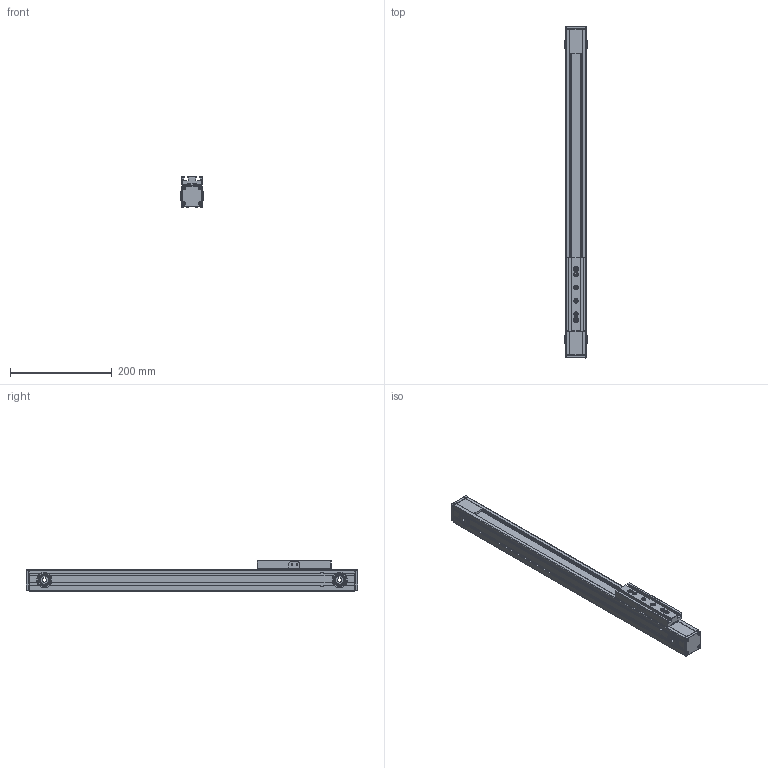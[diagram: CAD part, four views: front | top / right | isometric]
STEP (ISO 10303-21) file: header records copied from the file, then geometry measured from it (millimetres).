
FILE_DESCRIPTION (( 'STEP AP214' ), '1' );
FILE_NAME ('TKR40-400A1-F0-R3-高速内滚轮直线模组.step', '2025-10-10T03:22:03', ( '' ), ( '' ), 'SwSTEP 2.0', 'SolidWorks 2024', '' );
FILE_SCHEMA (( 'AUTOMOTIVE_DESIGN' ));
Length unit declared in the file: millimetre
Products named in the file (3): TKR40-400-R3-01; TKR40-R3-02; TKR40-400A1-F0-R3-高速内滚轮直线模组
Assembly tree (2 placements, depth 2):
  TKR40-400A1-F0-R3-高速内滚轮直线模组
    TKR40-400-R3-01
    TKR40-R3-02
Bounding box: 45 x 652 x 60 mm (x, y, z)
Volume: 530402.1 mm3; surface area: 369556.9 mm2
Topology: 16 solids, 56 shells, 2702 faces, 7175 edges, 4621 vertices
Faces by surface type: cylinder 1388, plane 792, torus 216, cone 186, bspline 96, sphere 24
Entity records: 146594 total; most frequent: CARTESIAN_POINT 52029, ORIENTED_EDGE 14178, DIRECTION 13212, EDGE_CURVE 7139, AXIS2_PLACEMENT_3D 5104, VERTEX_POINT 4625, LINE 3004, VECTOR 3004
